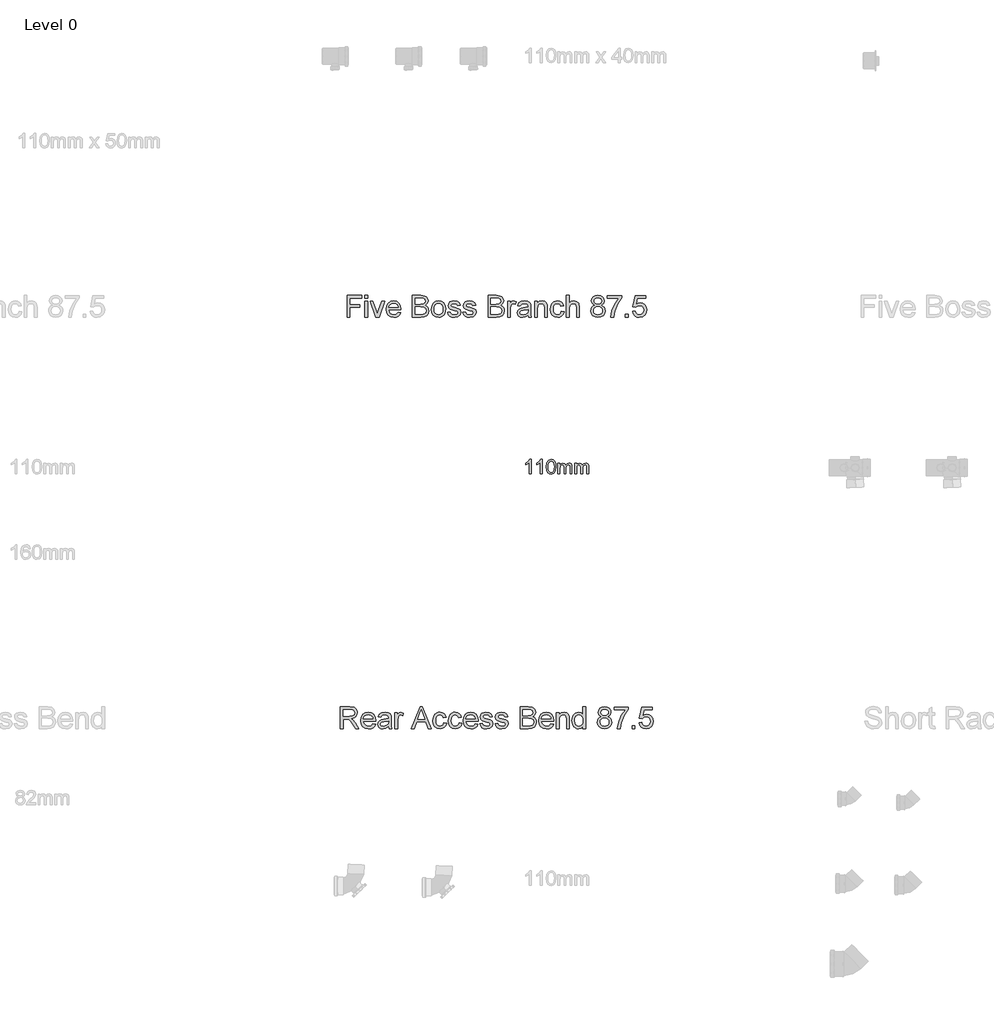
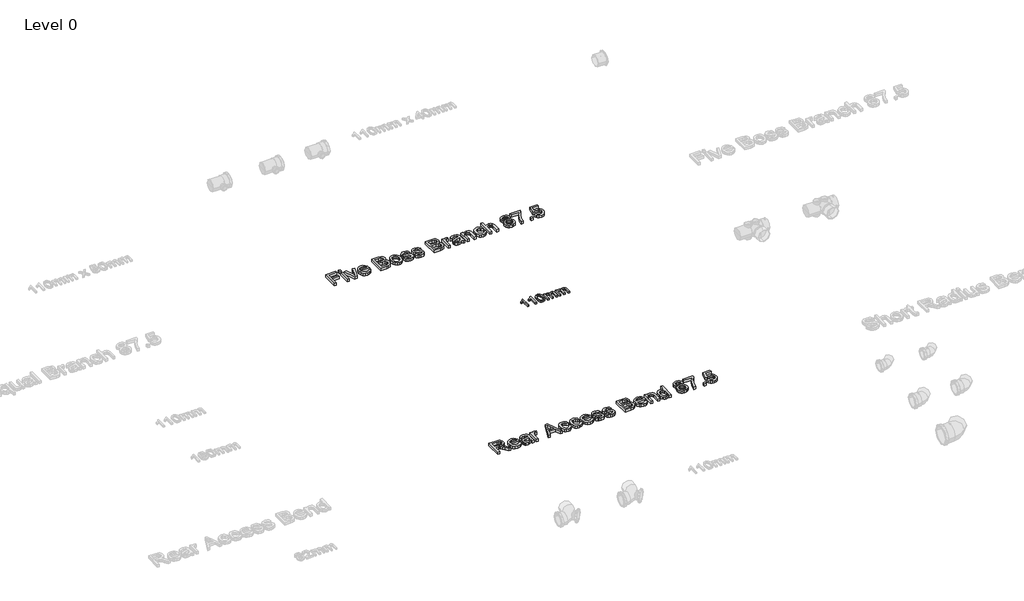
# One storey, part 12 of 23: 3 proxies.
"""IFC4 building model written with IfcOpenShell, lengths in millimetres."""

from ifc_helpers import new_model, si_unit, origin, origin_with_axes, place, context, project, spatial, polyline, outline, extrude, element, save

model = new_model("IFC4")

# Units and contexts
model_context = context("Model", 3, world=origin())
ifc_project = project(units=[si_unit("LENGTHUNIT", "METRE", prefix="MILLI")], contexts=[model_context])

# Site, building, storey
site = spatial("IfcSite", under=ifc_project)
building = spatial("IfcBuilding", under=site)
storey = spatial("IfcBuildingStorey", under=building, Name="Level 0", Elevation=0.0)

# Proxies
placement = place(None, origin())
element("IfcBuildingElementProxy", 1, Name="100mm Arial", ObjectType="100mm Arial", at=placement, inside=storey, context=model_context, shape_type="SweptSolid", body=[
    extrude(outline(polyline([(-10291.7293188, 2637.7167304), (-10304.0370111, 2637.7167304), (-10304.0370111, 2714.4474996), (-10315.6956649, 2706.1422111), (-10328.6523957, 2699.9282688), (-10328.6523957, 2711.5628842), (-10310.6115303, 2723.0773073), (-10299.6620111, 2736.1782688), (-10291.7293188, 2736.1782688), (-10291.7293188, 2637.7167304)])), origin_with_axes(), (0.0, 0.0, 1.0), 15.0),
    extrude(outline(polyline([(-10216.3447034, 2637.7167304), (-10228.6523957, 2637.7167304), (-10228.6523957, 2714.4474996), (-10240.3110495, 2706.1422111), (-10253.2677803, 2699.9282688), (-10253.2677803, 2711.5628842), (-10235.2269149, 2723.0773073), (-10224.2773957, 2736.1782688), (-10216.3447034, 2736.1782688), (-10216.3447034, 2637.7167304)])), origin_with_axes(), (0.0, 0.0, 1.0), 15.0),
    extrude(outline(polyline([(-10187.1139341, 2686.1542304), (-10183.4961457, 2714.4835573), (-10172.7509534, 2730.8176919), (-10154.8062418, 2736.1782688), (-10140.4312418, 2733.0051919), (-10130.5033572, 2723.8585573), (-10124.7341264, 2709.2912496), (-10122.4985495, 2686.1542304), (-10126.0802803, 2657.9450958), (-10136.7894149, 2641.5749035), (-10154.8062418, 2636.1782688), (-10167.5947034, 2638.5220188), (-10177.3062418, 2645.5532688), (-10184.6620111, 2662.2059131), (-10187.1139341, 2686.1542304)]), holes=[polyline([(-10174.8062418, 2686.1782688), (-10173.3639341, 2666.8182929), (-10169.0370111, 2655.613365), (-10162.5947034, 2650.2678121), (-10154.8062418, 2648.4859611), (-10147.0177803, 2650.2738217), (-10140.5754726, 2655.6374035), (-10136.2485495, 2666.848341), (-10134.8062418, 2686.1782688), (-10136.2004726, 2705.1025477), (-10140.3831649, 2716.394615), (-10146.8134534, 2722.0015861), (-10154.9504726, 2723.8705765), (-10162.6547995, 2722.2239419), (-10168.8447034, 2717.2840381), (-10173.3158572, 2705.2888458), (-10174.8062418, 2686.1782688)])]), origin_with_axes(), (0.0, 0.0, 1.0), 15.0),
    extrude(outline(polyline([(-10108.6523957, 2637.7167304), (-10108.6523957, 2710.0244227), (-10096.3447034, 2710.0244227), (-10096.3447034, 2698.1253842), (-10087.8831649, 2707.8729804), (-10075.8398957, 2711.5628842), (-10063.5081649, 2707.800865), (-10056.7293188, 2697.2599996), (-10047.1259534, 2707.9871631), (-10034.9985495, 2711.5628842), (-10025.7467466, 2710.0755044), (-10018.9047995, 2705.613365), (-10014.6770351, 2698.0562736), (-10013.2677803, 2687.2840381), (-10013.2677803, 2637.7167304), (-10025.5754726, 2637.7167304), (-10025.5754726, 2681.9955765), (-10026.7172995, 2692.2720188), (-10030.8519149, 2697.332115), (-10037.8831649, 2699.2551919), (-10049.9865303, 2694.3273073), (-10054.8062418, 2678.5340381), (-10054.8062418, 2637.7167304), (-10067.1139341, 2637.7167304), (-10067.1139341, 2683.3657688), (-10069.9624918, 2695.2888458), (-10079.3014341, 2699.2551919), (-10088.4120111, 2696.6109611), (-10094.4697034, 2688.8705765), (-10096.3447034, 2674.1830765), (-10096.3447034, 2637.7167304), (-10108.6523957, 2637.7167304)])), origin_with_axes(), (0.0, 0.0, 1.0), 15.0),
    extrude(outline(polyline([(-9994.8062418, 2637.7167304), (-9994.8062418, 2710.0244227), (-9982.4985495, 2710.0244227), (-9982.4985495, 2698.1253842), (-9974.0370111, 2707.8729804), (-9961.9937418, 2711.5628842), (-9949.6620111, 2707.800865), (-9942.8831649, 2697.2599996), (-9933.2797995, 2707.9871631), (-9921.1523957, 2711.5628842), (-9911.9005928, 2710.0755044), (-9905.0586457, 2705.613365), (-9900.8308813, 2698.0562736), (-9899.4216264, 2687.2840381), (-9899.4216264, 2637.7167304), (-9911.7293188, 2637.7167304), (-9911.7293188, 2681.9955765), (-9912.8711457, 2692.2720188), (-9917.0057611, 2697.332115), (-9924.0370111, 2699.2551919), (-9936.1403764, 2694.3273073), (-9940.960088, 2678.5340381), (-9940.960088, 2637.7167304), (-9953.2677803, 2637.7167304), (-9953.2677803, 2683.3657688), (-9956.116338, 2695.2888458), (-9965.4552803, 2699.2551919), (-9974.5658572, 2696.6109611), (-9980.6235495, 2688.8705765), (-9982.4985495, 2674.1830765), (-9982.4985495, 2637.7167304), (-9994.8062418, 2637.7167304)])), origin_with_axes(), (0.0, 0.0, 1.0), 15.0),
])
element("IfcBuildingElementProxy", 2, Name="150mm Arial", ObjectType="150mm Arial", at=placement, inside=storey, context=model_context, shape_type="SweptSolid", body=[
    extrude(outline(polyline([(-11544.4510666, 3705.2145219), (-11544.4510666, 3852.9068296), (-11445.2202973, 3852.9068296), (-11445.2202973, 3834.4452911), (-11525.9895281, 3834.4452911), (-11525.9895281, 3790.5991373), (-11456.7587589, 3790.5991373), (-11456.7587589, 3772.1375988), (-11525.9895281, 3772.1375988), (-11525.9895281, 3705.2145219), (-11544.4510666, 3705.2145219)])), origin_with_axes(), (0.0, 0.0, 1.0), 25.0),
    extrude(outline(polyline([(-11422.1433743, 3834.4452911), (-11422.1433743, 3852.9068296), (-11403.6818358, 3852.9068296), (-11403.6818358, 3834.4452911), (-11422.1433743, 3834.4452911)])), origin_with_axes(), (0.0, 0.0, 1.0), 25.0),
    extrude(outline(polyline([(-11422.1433743, 3705.2145219), (-11422.1433743, 3813.6760604), (-11403.6818358, 3813.6760604), (-11403.6818358, 3705.2145219), (-11422.1433743, 3705.2145219)])), origin_with_axes(), (0.0, 0.0, 1.0), 25.0),
    extrude(outline(polyline([(-11349.3789512, 3705.2145219), (-11387.5279897, 3813.6760604), (-11367.9847204, 3813.6760604), (-11344.8717397, 3748.7000988), (-11337.912605, 3726.8491373), (-11331.0977012, 3747.4741373), (-11307.8404897, 3813.6760604), (-11288.2972204, 3813.6760604), (-11325.9775089, 3705.2145219), (-11349.3789512, 3705.2145219)])), origin_with_axes(), (0.0, 0.0, 1.0), 25.0),
    extrude(outline(polyline([(-11196.2058743, 3737.5222142), (-11178.1049127, 3735.2145219), (-11184.6268478, 3721.5756998), (-11195.0339993, 3711.3803873), (-11209.0919921, 3705.025219), (-11226.5664512, 3702.9068296), (-11248.2281098, 3706.5621782), (-11264.8957781, 3717.5282238), (-11275.5237829, 3735.0928272), (-11279.0664512, 3758.5438488), (-11275.4877252, 3782.7836325), (-11264.7515473, 3800.9116373), (-11248.3092397, 3812.2157238), (-11227.6121243, 3815.9837527), (-11207.5595401, 3812.2247383), (-11191.5364031, 3800.947695), (-11181.030093, 3782.8557479), (-11177.5279897, 3758.6520219), (-11177.6361627, 3753.6760604), (-11260.6049127, 3753.6760604), (-11257.4092997, 3739.8569498), (-11249.9859223, 3729.697695), (-11239.2722805, 3723.4506998), (-11226.2058743, 3721.3683681), (-11208.1049127, 3725.2265411), (-11196.2058743, 3737.5222142)]), holes=[polyline([(-11260.6049127, 3772.1375988), (-11195.9895281, 3772.1375988), (-11198.4865233, 3781.8912046), (-11203.381355, 3788.8683681), (-11214.1445762, 3795.3587527), (-11227.6842397, 3797.5222142), (-11240.1286507, 3795.7959522), (-11250.4186147, 3790.6171661), (-11257.5715594, 3782.5447503), (-11260.6049127, 3772.1375988)])]), origin_with_axes(), (0.0, 0.0, 1.0), 25.0),
    extrude(outline(polyline([(-11099.0664512, 3705.2145219), (-11099.0664512, 3852.9068296), (-11042.7082781, 3852.9068296), (-11015.1061147, 3848.5618777), (-11005.8302733, 3843.049558), (-10998.8080377, 3835.2025027), (-10992.912605, 3816.3082719), (-10997.8705377, 3799.0546661), (-11012.8525089, 3785.9837527), (-11002.3912709, 3780.5210123), (-10994.6614031, 3772.2097142), (-10989.8882661, 3761.5997383), (-10988.2972204, 3749.2409642), (-10992.6421723, 3729.3912046), (-11003.4053935, 3715.2565892), (-11019.4690954, 3707.7565892), (-11043.1409704, 3705.2145219), (-11099.0664512, 3705.2145219)]), holes=[polyline([(-11080.6049127, 3723.6760604), (-11042.7443358, 3723.6760604), (-11029.0424127, 3724.3972142), (-11017.4498647, 3728.4176469), (-11009.7695762, 3736.6207719), (-11006.7587589, 3749.0606758), (-11010.2924127, 3763.4116373), (-11021.74073, 3771.9753392), (-11044.5472204, 3774.4452911), (-11080.6049127, 3774.4452911), (-11080.6049127, 3723.6760604)]), polyline([(-11080.6049127, 3792.9068296), (-11046.8909704, 3792.9068296), (-11027.2034704, 3794.4933681), (-11015.3585185, 3801.3263008), (-11011.3741435, 3813.3515411), (-11015.0880858, 3825.3948104), (-11025.725105, 3832.5162046), (-11049.4510666, 3834.4452911), (-11080.6049127, 3834.4452911), (-11080.6049127, 3792.9068296)])]), origin_with_axes(), (0.0, 0.0, 1.0), 25.0),
    extrude(outline(polyline([(-10969.835682, 3759.4452911), (-10965.8422925, 3785.5961325), (-10953.8621243, 3803.9765411), (-10939.0604416, 3812.9819498), (-10921.3380858, 3815.9837527), (-10901.9435546, 3812.3284041), (-10886.4522685, 3801.3623585), (-10876.2975209, 3783.9510003), (-10872.912605, 3760.9597142), (-10874.4089993, 3742.3088729), (-10878.898182, 3728.1111565), (-10886.249444, 3717.4786445), (-10896.3320762, 3709.5234161), (-10908.3077372, 3704.5609762), (-10921.3380858, 3702.9068296), (-10940.9669921, 3706.5486565), (-10956.4402493, 3717.4741373), (-10966.4868238, 3735.2505796), (-10969.835682, 3759.4452911)]), holes=[polyline([(-10951.3741435, 3759.4813488), (-10949.2377252, 3742.7731157), (-10942.8284704, 3730.86957), (-10933.1830377, 3723.7436686), (-10921.3380858, 3721.3683681), (-10909.5472204, 3723.7571902), (-10899.9198166, 3730.9236565), (-10893.5105618, 3742.9849546), (-10891.3741435, 3760.0582719), (-10893.5240834, 3776.2797262), (-10899.9739031, 3788.0210123), (-10909.6148286, 3795.1469137), (-10921.3380858, 3797.5222142), (-10933.1830377, 3795.1559282), (-10942.8284704, 3788.05707), (-10949.2377252, 3776.1805676), (-10951.3741435, 3759.4813488)])]), origin_with_axes(), (0.0, 0.0, 1.0), 25.0),
    extrude(outline(polyline([(-10859.0664512, 3737.5222142), (-10840.6049127, 3739.8299065), (-10837.6932541, 3731.9332719), (-10832.0592397, 3726.1279835), (-10812.4799127, 3721.3683681), (-10793.6577973, 3725.7313488), (-10787.5279897, 3735.9717335), (-10793.693855, 3744.2650027), (-10812.6962589, 3749.5294258), (-10840.4967397, 3758.5618777), (-10852.6301531, 3769.1087527), (-10856.7587589, 3784.0005796), (-10853.4414512, 3797.7565892), (-10844.3909704, 3808.2674065), (-10832.6541916, 3813.7301469), (-10816.7707781, 3815.9837527), (-10794.3068358, 3812.3599546), (-10780.0279897, 3802.5522623), (-10773.6818358, 3785.9837527), (-10792.1433743, 3783.6760604), (-10799.08448, 3793.8623585), (-10815.3284704, 3797.5222142), (-10832.9967397, 3794.0246181), (-10838.2972204, 3785.8755796), (-10836.0977012, 3780.5029835), (-10829.210682, 3776.4284642), (-10813.3092397, 3772.4981758), (-10786.2118839, 3763.8082719), (-10773.6277493, 3753.9645219), (-10769.0664512, 3737.9188488), (-10774.4210185, 3720.2505796), (-10789.8717397, 3707.43207), (-10812.7323166, 3702.9068296), (-10831.3471002, 3705.08832), (-10844.9318358, 3711.6327911), (-10854.0003454, 3722.4681277), (-10859.0664512, 3737.5222142)])), origin_with_axes(), (0.0, 0.0, 1.0), 25.0),
    extrude(outline(polyline([(-10755.2202973, 3737.5222142), (-10736.7587589, 3739.8299065), (-10733.8471002, 3731.9332719), (-10728.2130858, 3726.1279835), (-10708.6337589, 3721.3683681), (-10689.8116435, 3725.7313488), (-10683.6818358, 3735.9717335), (-10689.8477012, 3744.2650027), (-10708.850105, 3749.5294258), (-10736.6505858, 3758.5618777), (-10748.7839993, 3769.1087527), (-10752.912605, 3784.0005796), (-10749.5952973, 3797.7565892), (-10740.5448166, 3808.2674065), (-10728.8080377, 3813.7301469), (-10712.9246243, 3815.9837527), (-10690.460682, 3812.3599546), (-10676.1818358, 3802.5522623), (-10669.835682, 3785.9837527), (-10688.2972204, 3783.6760604), (-10695.2383262, 3793.8623585), (-10711.4823166, 3797.5222142), (-10729.1505858, 3794.0246181), (-10734.4510666, 3785.8755796), (-10732.2515473, 3780.5029835), (-10725.3645281, 3776.4284642), (-10709.4630858, 3772.4981758), (-10682.36573, 3763.8082719), (-10669.7815954, 3753.9645219), (-10665.2202973, 3737.9188488), (-10670.5748647, 3720.2505796), (-10686.0255858, 3707.43207), (-10708.8861627, 3702.9068296), (-10727.5009464, 3705.08832), (-10741.085682, 3711.6327911), (-10750.1541916, 3722.4681277), (-10755.2202973, 3737.5222142)])), origin_with_axes(), (0.0, 0.0, 1.0), 25.0),
    extrude(outline(polyline([(-10584.4510666, 3705.2145219), (-10584.4510666, 3852.9068296), (-10528.0928935, 3852.9068296), (-10500.49073, 3848.5618777), (-10491.2148887, 3843.049558), (-10484.1926531, 3835.2025027), (-10478.2972204, 3816.3082719), (-10483.2551531, 3799.0546661), (-10498.2371243, 3785.9837527), (-10487.7758863, 3780.5210123), (-10480.0460185, 3772.2097142), (-10475.2728815, 3761.5997383), (-10473.6818358, 3749.2409642), (-10478.0267877, 3729.3912046), (-10488.7900089, 3715.2565892), (-10504.8537108, 3707.7565892), (-10528.5255858, 3705.2145219), (-10584.4510666, 3705.2145219)]), holes=[polyline([(-10565.9895281, 3723.6760604), (-10528.1289512, 3723.6760604), (-10514.4270281, 3724.3972142), (-10502.83448, 3728.4176469), (-10495.1541916, 3736.6207719), (-10492.1433743, 3749.0606758), (-10495.6770281, 3763.4116373), (-10507.1253454, 3771.9753392), (-10529.9318358, 3774.4452911), (-10565.9895281, 3774.4452911), (-10565.9895281, 3723.6760604)]), polyline([(-10565.9895281, 3792.9068296), (-10532.2755858, 3792.9068296), (-10512.5880858, 3794.4933681), (-10500.7431339, 3801.3263008), (-10496.7587589, 3813.3515411), (-10500.4727012, 3825.3948104), (-10511.1097204, 3832.5162046), (-10534.835682, 3834.4452911), (-10565.9895281, 3834.4452911), (-10565.9895281, 3792.9068296)])]), origin_with_axes(), (0.0, 0.0, 1.0), 25.0),
    extrude(outline(polyline([(-10450.6049127, 3705.2145219), (-10450.6049127, 3813.6760604), (-10434.4510666, 3813.6760604), (-10434.4510666, 3797.6303873), (-10422.9847204, 3812.4140411), (-10411.4462589, 3815.9837527), (-10392.912605, 3810.2866373), (-10399.0784704, 3793.7361565), (-10412.0592397, 3797.5222142), (-10422.4979416, 3793.8803873), (-10429.1505858, 3783.7842335), (-10432.1433743, 3762.2217335), (-10432.1433743, 3705.2145219), (-10450.6049127, 3705.2145219)])), origin_with_axes(), (0.0, 0.0, 1.0), 25.0),
    extrude(outline(polyline([(-10312.1433743, 3719.0606758), (-10330.0460185, 3706.5486565), (-10349.8236627, 3702.9068296), (-10365.2518478, 3705.0973344), (-10376.632557, 3711.6688488), (-10383.6502853, 3721.6478152), (-10385.9895281, 3734.0606758), (-10382.4558743, 3748.6640411), (-10373.1710185, 3759.2650027), (-10360.2443358, 3765.322695), (-10344.2707781, 3768.0991373), (-10312.2515473, 3774.4452911), (-10312.1433743, 3778.5558681), (-10313.4144079, 3786.7950508), (-10317.2275089, 3792.1856758), (-10325.7551531, 3796.1880796), (-10337.6361627, 3797.5222142), (-10356.3140473, 3793.9705315), (-10365.2202973, 3781.3683681), (-10383.6818358, 3783.6760604), (-10375.695057, 3801.7049065), (-10359.6133262, 3812.2698104), (-10335.256355, 3815.9837527), (-10312.882557, 3812.7025027), (-10300.2443358, 3804.46332), (-10294.5832781, 3791.9332719), (-10293.6818358, 3775.7794258), (-10293.6818358, 3752.8106758), (-10292.7443358, 3720.7373585), (-10289.0664512, 3705.2145219), (-10307.5279897, 3705.2145219), (-10312.1433743, 3719.0606758)]), holes=[polyline([(-10312.1433743, 3755.9837527), (-10341.9270281, 3750.322695), (-10357.8104416, 3747.3299065), (-10365.0039512, 3742.4621181), (-10367.5279897, 3735.3587527), (-10362.0291916, 3725.3707719), (-10345.8933743, 3721.3683681), (-10327.2154897, 3725.7854354), (-10315.1722204, 3736.4765411), (-10312.2515473, 3750.7553873), (-10312.1433743, 3755.9837527)])]), origin_with_axes(), (0.0, 0.0, 1.0), 25.0),
    extrude(outline(polyline([(-10268.2972204, 3705.2145219), (-10268.2972204, 3813.6760604), (-10249.835682, 3813.6760604), (-10249.835682, 3798.5318296), (-10235.7190954, 3811.6207719), (-10216.4462589, 3815.9837527), (-10199.0123647, 3812.4681277), (-10187.1133262, 3803.2373585), (-10181.5784704, 3789.6616373), (-10180.6049127, 3771.8130796), (-10180.6049127, 3705.2145219), (-10199.0664512, 3705.2145219), (-10199.0664512, 3769.3250988), (-10201.193855, 3785.6592335), (-10208.7118839, 3794.2950508), (-10221.3861627, 3797.5222142), (-10232.1989632, 3795.7103152), (-10241.4162108, 3790.2746181), (-10247.7308142, 3779.7728152), (-10249.835682, 3762.7625988), (-10249.835682, 3705.2145219), (-10268.2972204, 3705.2145219)])), origin_with_axes(), (0.0, 0.0, 1.0), 25.0),
    extrude(outline(polyline([(-10085.9895281, 3744.4452911), (-10067.5279897, 3742.1375988), (-10072.6752252, 3725.7178272), (-10082.3477012, 3713.3094738), (-10095.6349608, 3705.5074907), (-10111.6265473, 3702.9068296), (-10131.264468, 3706.5351349), (-10146.6205377, 3717.4200508), (-10156.5318959, 3735.0838128), (-10159.835682, 3759.0486565), (-10154.1926531, 3789.7157238), (-10147.0712589, 3801.2136205), (-10136.9931339, 3809.4212527), (-10124.936343, 3814.3431277), (-10111.8789512, 3815.9837527), (-10096.2794921, 3813.7301469), (-10083.8080377, 3806.9693296), (-10074.8612228, 3796.0618777), (-10069.835682, 3781.3683681), (-10088.2972204, 3779.0606758), (-10096.8609223, 3792.8888008), (-10111.7347204, 3797.5222142), (-10123.6653094, 3795.2415652), (-10133.1349608, 3788.3996181), (-10139.3143478, 3776.6267815), (-10141.3741435, 3759.5534642), (-10139.3594199, 3742.2502791), (-10133.3152493, 3730.4368777), (-10124.0168719, 3723.6354955), (-10112.2395281, 3721.3683681), (-10102.6797324, 3722.7836325), (-10094.8416916, 3727.0294258), (-10089.140069, 3734.213921), (-10085.9895281, 3744.4452911)])), origin_with_axes(), (0.0, 0.0, 1.0), 25.0),
    extrude(outline(polyline([(-10051.3741435, 3705.2145219), (-10051.3741435, 3852.9068296), (-10032.912605, 3852.9068296), (-10032.912605, 3798.603945), (-10018.5165714, 3811.6388008), (-10000.7852012, 3815.9837527), (-9980.0520281, 3811.2421661), (-9967.4678935, 3798.135195), (-9963.6818358, 3773.8683681), (-9963.6818358, 3705.2145219), (-9982.1433743, 3705.2145219), (-9982.1433743, 3771.9573104), (-9983.6127252, 3783.5138008), (-9988.0207781, 3791.4284642), (-9995.1241435, 3795.9987767), (-10004.679432, 3797.5222142), (-10019.8056339, 3793.4116373), (-10029.9017877, 3782.2698104), (-10032.912605, 3762.8347142), (-10032.912605, 3705.2145219), (-10051.3741435, 3705.2145219)])), origin_with_axes(), (0.0, 0.0, 1.0), 25.0),
    extrude(outline(polyline([(-9858.3212589, 3786.5606758), (-9875.1421723, 3798.0270219), (-9880.6049127, 3815.8755796), (-9877.6301531, 3830.307671), (-9868.7058743, 3842.2337527), (-9854.8326772, 3850.2385604), (-9837.0111627, 3852.9068296), (-9819.0814752, 3850.1754594), (-9805.0279897, 3841.9813488), (-9795.9414512, 3829.8659642), (-9792.912605, 3815.3707719), (-9798.30323, 3797.9729354), (-9814.6553935, 3786.5606758), (-9803.2927132, 3780.705808), (-9795.02198, 3772.0835123), (-9789.9784103, 3761.1084522), (-9788.2972204, 3748.1952911), (-9791.632557, 3730.5450508), (-9801.6385666, 3715.9597142), (-9817.0892877, 3706.1700508), (-9836.7587589, 3702.9068296), (-9856.42823, 3706.1835724), (-9871.8789512, 3716.0138008), (-9881.8849608, 3730.7388609), (-9885.2202973, 3748.7000988), (-9883.4714993, 3762.1135604), (-9878.225105, 3773.1472142), (-9869.7515473, 3781.4224546), (-9858.3212589, 3786.5606758)]), holes=[polyline([(-9866.7587589, 3749.3491373), (-9863.6758262, 3735.4488969), (-9852.7683743, 3725.0462527), (-9836.6145281, 3721.3683681), (-9824.0484223, 3723.3019618), (-9814.6193358, 3729.1027431), (-9808.7239031, 3737.8872984), (-9806.7587589, 3748.7722142), (-9808.7870041, 3759.8419258), (-9814.8717397, 3768.8202911), (-9824.5171723, 3774.7698104), (-9837.2275089, 3776.7529835), (-9849.6178334, 3774.7968536), (-9858.9522685, 3768.9284642), (-9864.8071363, 3760.1213729), (-9866.7587589, 3749.3491373)]), polyline([(-9862.1433743, 3815.3347142), (-9860.5072565, 3807.27582), (-9855.5989031, 3800.8395219), (-9847.5625449, 3796.6207719), (-9836.5424127, 3795.2145219), (-9825.7791916, 3796.6117575), (-9817.8645281, 3800.8034642), (-9812.9967397, 3807.0234161), (-9811.3741435, 3814.5053873), (-9813.0508262, 3822.2713128), (-9818.0808743, 3828.6940892), (-9826.1037108, 3833.0074907), (-9836.7587589, 3834.4452911), (-9847.4814151, 3833.0390411), (-9855.49073, 3828.8202911), (-9860.4802132, 3822.6363969), (-9862.1433743, 3815.3347142)])]), origin_with_axes(), (0.0, 0.0, 1.0), 25.0),
    extrude(outline(polyline([(-9772.1433743, 3832.1375988), (-9772.1433743, 3850.5991373), (-9675.2202973, 3850.5991373), (-9675.2202973, 3835.6712527), (-9702.7142877, 3795.9537046), (-9723.7539512, 3745.3467335), (-9730.6049127, 3705.2145219), (-9749.0664512, 3705.2145219), (-9741.7287108, 3746.8611565), (-9721.5904897, 3793.9344738), (-9693.6818358, 3832.1375988), (-9772.1433743, 3832.1375988)])), origin_with_axes(), (0.0, 0.0, 1.0), 25.0),
    extrude(outline(polyline([(-9649.835682, 3705.2145219), (-9649.835682, 3723.6760604), (-9631.3741435, 3723.6760604), (-9631.3741435, 3705.2145219), (-9649.835682, 3705.2145219)])), origin_with_axes(), (0.0, 0.0, 1.0), 25.0),
    extrude(outline(polyline([(-9601.3741435, 3744.4452911), (-9582.912605, 3746.7529835), (-9579.523182, 3735.6697503), (-9573.6097204, 3727.7325508), (-9565.1992637, 3722.9594137), (-9554.318855, 3721.3683681), (-9541.085682, 3723.5814089), (-9531.1698166, 3730.2205315), (-9524.9769079, 3740.5195099), (-9522.912605, 3753.7121181), (-9524.8461988, 3766.1339931), (-9530.64698, 3775.635195), (-9540.3600209, 3781.665844), (-9554.0303935, 3783.6760604), (-9570.2383262, 3780.4669258), (-9580.6049127, 3772.1375988), (-9599.0664512, 3774.4452911), (-9582.912605, 3850.5991373), (-9511.3741435, 3850.5991373), (-9511.3741435, 3832.1375988), (-9567.9847204, 3832.1375988), (-9575.881355, 3791.4645219), (-9562.6932541, 3799.4693296), (-9548.8741435, 3802.1375988), (-9531.6250449, 3798.8293056), (-9517.3056339, 3788.9044258), (-9507.6647084, 3773.7782238), (-9504.4510666, 3754.8659642), (-9507.3446964, 3736.4044258), (-9516.0255858, 3720.6111565), (-9532.648182, 3707.3329113), (-9554.3909704, 3702.9068296), (-9572.5234824, 3705.7508801), (-9586.9690954, 3714.2830315), (-9596.8714392, 3727.5116974), (-9601.3741435, 3744.4452911)])), origin_with_axes(), (0.0, 0.0, 1.0), 25.0),
])
element("IfcBuildingElementProxy", 3, Name="150mm Arial", ObjectType="150mm Arial", at=placement, inside=storey, context=model_context, shape_type="SweptSolid", body=[
    extrude(outline(polyline([(-11589.4510666, 905.2145219), (-11589.4510666, 1052.9068296), (-11525.8092397, 1052.9068296), (-11496.2599608, 1048.9224546), (-11487.1644079, 1043.4056277), (-11480.1061147, 1034.8238969), (-11475.5763671, 1024.1823705), (-11474.0664512, 1012.4861565), (-11476.5679536, 997.9368777), (-11484.0724608, 985.8755796), (-11496.8053334, 977.0324306), (-11514.991932, 972.1375988), (-11504.4991435, 964.2409642), (-11489.5352012, 945.2385604), (-11464.9077973, 905.2145219), (-11486.3621243, 905.2145219), (-11505.5808743, 935.8275027), (-11519.4630858, 956.0919258), (-11529.2166916, 965.6652431), (-11537.9967397, 969.1808681), (-11548.7058743, 969.8299065), (-11570.9895281, 969.8299065), (-11570.9895281, 905.2145219), (-11589.4510666, 905.2145219)]), holes=[polyline([(-11570.9895281, 988.291445), (-11529.6674127, 988.291445), (-11508.5916916, 990.9056277), (-11496.6205377, 999.2710123), (-11492.5279897, 1011.8010604), (-11494.4796122, 1020.806469), (-11500.33448, 1028.0630796), (-11510.4080978, 1032.8497383), (-11525.0159704, 1034.4452911), (-11570.9895281, 1034.4452911), (-11570.9895281, 988.291445)])]), origin_with_axes(), (0.0, 0.0, 1.0), 25.0),
    extrude(outline(polyline([(-11368.1289512, 937.5222142), (-11350.0279897, 935.2145219), (-11356.5499247, 921.5756998), (-11366.9570762, 911.3803873), (-11381.015069, 905.025219), (-11398.4895281, 902.9068296), (-11420.1511868, 906.5621782), (-11436.818855, 917.5282238), (-11447.4468598, 935.0928272), (-11450.9895281, 958.5438488), (-11447.4108022, 982.7836325), (-11436.6746243, 1000.9116373), (-11420.2323166, 1012.2157238), (-11399.5352012, 1015.9837527), (-11379.4826171, 1012.2247383), (-11363.45948, 1000.947695), (-11352.9531699, 982.8557479), (-11349.4510666, 958.6520219), (-11349.5592397, 953.6760604), (-11432.5279897, 953.6760604), (-11429.3323767, 939.8569498), (-11421.9089993, 929.697695), (-11411.1953574, 923.4506998), (-11398.1289512, 921.3683681), (-11380.0279897, 925.2265411), (-11368.1289512, 937.5222142)]), holes=[polyline([(-11432.5279897, 972.1375988), (-11367.912605, 972.1375988), (-11370.4096002, 981.8912046), (-11375.304432, 988.8683681), (-11386.0676531, 995.3587527), (-11399.6073166, 997.5222142), (-11412.0517276, 995.7959522), (-11422.3416916, 990.6171661), (-11429.4946363, 982.5447503), (-11432.5279897, 972.1375988)])]), origin_with_axes(), (0.0, 0.0, 1.0), 25.0),
    extrude(outline(polyline([(-11261.7587589, 919.0606758), (-11279.6614031, 906.5486565), (-11299.4390473, 902.9068296), (-11314.8672324, 905.0973344), (-11326.2479416, 911.6688488), (-11333.2656699, 921.6478152), (-11335.6049127, 934.0606758), (-11332.0712589, 948.6640411), (-11322.7864031, 959.2650027), (-11309.8597204, 965.322695), (-11293.8861627, 968.0991373), (-11261.866932, 974.4452911), (-11261.7587589, 978.5558681), (-11263.0297925, 986.7950508), (-11266.8428935, 992.1856758), (-11275.3705377, 996.1880796), (-11287.2515473, 997.5222142), (-11305.929432, 993.9705315), (-11314.835682, 981.3683681), (-11333.2972204, 983.6760604), (-11325.3104416, 1001.7049065), (-11309.2287108, 1012.2698104), (-11284.8717397, 1015.9837527), (-11262.4979416, 1012.7025027), (-11249.8597204, 1004.46332), (-11244.1986627, 991.9332719), (-11243.2972204, 975.7794258), (-11243.2972204, 952.8106758), (-11242.3597204, 920.7373585), (-11238.6818358, 905.2145219), (-11257.1433743, 905.2145219), (-11261.7587589, 919.0606758)]), holes=[polyline([(-11261.7587589, 955.9837527), (-11291.5424127, 950.322695), (-11307.4258262, 947.3299065), (-11314.6193358, 942.4621181), (-11317.1433743, 935.3587527), (-11311.6445762, 925.3707719), (-11295.5087589, 921.3683681), (-11276.8308743, 925.7854354), (-11264.787605, 936.4765411), (-11261.866932, 950.7553873), (-11261.7587589, 955.9837527)])]), origin_with_axes(), (0.0, 0.0, 1.0), 25.0),
    extrude(outline(polyline([(-11217.912605, 905.2145219), (-11217.912605, 1013.6760604), (-11201.7587589, 1013.6760604), (-11201.7587589, 997.6303873), (-11190.2924127, 1012.4140411), (-11178.7539512, 1015.9837527), (-11160.2202973, 1010.2866373), (-11166.3861627, 993.7361565), (-11179.366932, 997.5222142), (-11189.8056339, 993.8803873), (-11196.4582781, 983.7842335), (-11199.4510666, 962.2217335), (-11199.4510666, 905.2145219), (-11217.912605, 905.2145219)])), origin_with_axes(), (0.0, 0.0, 1.0), 25.0),
    extrude(outline(polyline([(-11105.881355, 905.2145219), (-11046.9270281, 1052.9068296), (-11031.2058743, 1052.9068296), (-10972.2515473, 905.2145219), (-10991.7587589, 905.2145219), (-11008.6698166, 951.3683681), (-11069.4991435, 951.3683681), (-11086.3741435, 905.2145219), (-11105.881355, 905.2145219)]), holes=[polyline([(-11062.7202973, 969.8299065), (-11015.412605, 969.8299065), (-11028.7178935, 1006.1400027), (-11039.0664512, 1034.4452911), (-11048.2611627, 1009.3130796), (-11062.7202973, 969.8299065)])]), origin_with_axes(), (0.0, 0.0, 1.0), 25.0),
    extrude(outline(polyline([(-10885.6049127, 944.4452911), (-10867.1433743, 942.1375988), (-10872.2906098, 925.7178272), (-10881.9630858, 913.3094738), (-10895.2503454, 905.5074907), (-10911.241932, 902.9068296), (-10930.8798526, 906.5351349), (-10946.2359223, 917.4200508), (-10956.1472805, 935.0838128), (-10959.4510666, 959.0486565), (-10953.8080377, 989.7157238), (-10946.6866435, 1001.2136205), (-10936.6085185, 1009.4212527), (-10924.5517276, 1014.3431277), (-10911.4943358, 1015.9837527), (-10895.8948767, 1013.7301469), (-10883.4234223, 1006.9693296), (-10874.4766074, 996.0618777), (-10869.4510666, 981.3683681), (-10887.912605, 979.0606758), (-10896.476307, 992.8888008), (-10911.350105, 997.5222142), (-10923.280694, 995.2415652), (-10932.7503454, 988.3996181), (-10938.9297324, 976.6267815), (-10940.9895281, 959.5534642), (-10938.9748046, 942.2502791), (-10932.9306339, 930.4368777), (-10923.6322565, 923.6354955), (-10911.8549127, 921.3683681), (-10902.2951171, 922.7836325), (-10894.4570762, 927.0294258), (-10888.7554536, 934.213921), (-10885.6049127, 944.4452911)])), origin_with_axes(), (0.0, 0.0, 1.0), 25.0),
    extrude(outline(polyline([(-10781.7587589, 944.4452911), (-10763.2972204, 942.1375988), (-10768.444456, 925.7178272), (-10778.116932, 913.3094738), (-10791.4041916, 905.5074907), (-10807.3957781, 902.9068296), (-10827.0336988, 906.5351349), (-10842.3897685, 917.4200508), (-10852.3011267, 935.0838128), (-10855.6049127, 959.0486565), (-10849.9618839, 989.7157238), (-10842.8404897, 1001.2136205), (-10832.7623647, 1009.4212527), (-10820.7055738, 1014.3431277), (-10807.648182, 1015.9837527), (-10792.0487228, 1013.7301469), (-10779.5772685, 1006.9693296), (-10770.6304536, 996.0618777), (-10765.6049127, 981.3683681), (-10784.0664512, 979.0606758), (-10792.6301531, 992.8888008), (-10807.5039512, 997.5222142), (-10819.4345401, 995.2415652), (-10828.9041916, 988.3996181), (-10835.0835786, 976.6267815), (-10837.1433743, 959.5534642), (-10835.1286507, 942.2502791), (-10829.08448, 930.4368777), (-10819.7861026, 923.6354955), (-10808.0087589, 921.3683681), (-10798.4489632, 922.7836325), (-10790.6109223, 927.0294258), (-10784.9092997, 934.213921), (-10781.7587589, 944.4452911)])), origin_with_axes(), (0.0, 0.0, 1.0), 25.0),
    extrude(outline(polyline([(-10671.2058743, 937.5222142), (-10653.1049127, 935.2145219), (-10659.6268478, 921.5756998), (-10670.0339993, 911.3803873), (-10684.0919921, 905.025219), (-10701.5664512, 902.9068296), (-10723.2281098, 906.5621782), (-10739.8957781, 917.5282238), (-10750.5237829, 935.0928272), (-10754.0664512, 958.5438488), (-10750.4877252, 982.7836325), (-10739.7515473, 1000.9116373), (-10723.3092397, 1012.2157238), (-10702.6121243, 1015.9837527), (-10682.5595401, 1012.2247383), (-10666.5364031, 1000.947695), (-10656.030093, 982.8557479), (-10652.5279897, 958.6520219), (-10652.6361627, 953.6760604), (-10735.6049127, 953.6760604), (-10732.4092997, 939.8569498), (-10724.9859223, 929.697695), (-10714.2722805, 923.4506998), (-10701.2058743, 921.3683681), (-10683.1049127, 925.2265411), (-10671.2058743, 937.5222142)]), holes=[polyline([(-10735.6049127, 972.1375988), (-10670.9895281, 972.1375988), (-10673.4865233, 981.8912046), (-10678.381355, 988.8683681), (-10689.1445762, 995.3587527), (-10702.6842397, 997.5222142), (-10715.1286507, 995.7959522), (-10725.4186147, 990.6171661), (-10732.5715594, 982.5447503), (-10735.6049127, 972.1375988)])]), origin_with_axes(), (0.0, 0.0, 1.0), 25.0),
    extrude(outline(polyline([(-10640.9895281, 937.5222142), (-10622.5279897, 939.8299065), (-10619.616331, 931.9332719), (-10613.9823166, 926.1279835), (-10594.4029897, 921.3683681), (-10575.5808743, 925.7313488), (-10569.4510666, 935.9717335), (-10575.616932, 944.2650027), (-10594.6193358, 949.5294258), (-10622.4198166, 958.5618777), (-10634.55323, 969.1087527), (-10638.6818358, 984.0005796), (-10635.3645281, 997.7565892), (-10626.3140473, 1008.2674065), (-10614.5772685, 1013.7301469), (-10598.693855, 1015.9837527), (-10576.2299127, 1012.3599546), (-10561.9510666, 1002.5522623), (-10555.6049127, 985.9837527), (-10574.0664512, 983.6760604), (-10581.007557, 993.8623585), (-10597.2515473, 997.5222142), (-10614.9198166, 994.0246181), (-10620.2202973, 985.8755796), (-10618.0207781, 980.5029835), (-10611.1337589, 976.4284642), (-10595.2323166, 972.4981758), (-10568.1349608, 963.8082719), (-10555.5508262, 953.9645219), (-10550.9895281, 937.9188488), (-10556.3440954, 920.2505796), (-10571.7948166, 907.43207), (-10594.6553935, 902.9068296), (-10613.2701772, 905.08832), (-10626.8549127, 911.6327911), (-10635.9234223, 922.4681277), (-10640.9895281, 937.5222142)])), origin_with_axes(), (0.0, 0.0, 1.0), 25.0),
    extrude(outline(polyline([(-10537.1433743, 937.5222142), (-10518.6818358, 939.8299065), (-10515.7701772, 931.9332719), (-10510.1361627, 926.1279835), (-10490.5568358, 921.3683681), (-10471.7347204, 925.7313488), (-10465.6049127, 935.9717335), (-10471.7707781, 944.2650027), (-10490.773182, 949.5294258), (-10518.5736627, 958.5618777), (-10530.7070762, 969.1087527), (-10534.835682, 984.0005796), (-10531.5183743, 997.7565892), (-10522.4678935, 1008.2674065), (-10510.7311147, 1013.7301469), (-10494.8477012, 1015.9837527), (-10472.3837589, 1012.3599546), (-10458.1049127, 1002.5522623), (-10451.7587589, 985.9837527), (-10470.2202973, 983.6760604), (-10477.1614031, 993.8623585), (-10493.4053935, 997.5222142), (-10511.0736627, 994.0246181), (-10516.3741435, 985.8755796), (-10514.1746243, 980.5029835), (-10507.287605, 976.4284642), (-10491.3861627, 972.4981758), (-10464.288807, 963.8082719), (-10451.7046723, 953.9645219), (-10447.1433743, 937.9188488), (-10452.4979416, 920.2505796), (-10467.9486627, 907.43207), (-10490.8092397, 902.9068296), (-10509.4240233, 905.08832), (-10523.0087589, 911.6327911), (-10532.0772685, 922.4681277), (-10537.1433743, 937.5222142)])), origin_with_axes(), (0.0, 0.0, 1.0), 25.0),
    extrude(outline(polyline([(-10366.3741435, 905.2145219), (-10366.3741435, 1052.9068296), (-10310.0159704, 1052.9068296), (-10282.413807, 1048.5618777), (-10273.1379656, 1043.049558), (-10266.11573, 1035.2025027), (-10260.2202973, 1016.3082719), (-10265.17823, 999.0546661), (-10280.1602012, 985.9837527), (-10269.6989632, 980.5210123), (-10261.9690954, 972.2097142), (-10257.1959584, 961.5997383), (-10255.6049127, 949.2409642), (-10259.9498647, 929.3912046), (-10270.7130858, 915.2565892), (-10286.7767877, 907.7565892), (-10310.4486627, 905.2145219), (-10366.3741435, 905.2145219)]), holes=[polyline([(-10347.912605, 923.6760604), (-10310.0520281, 923.6760604), (-10296.350105, 924.3972142), (-10284.757557, 928.4176469), (-10277.0772685, 936.6207719), (-10274.0664512, 949.0606758), (-10277.600105, 963.4116373), (-10289.0484223, 971.9753392), (-10311.8549127, 974.4452911), (-10347.912605, 974.4452911), (-10347.912605, 923.6760604)]), polyline([(-10347.912605, 992.9068296), (-10314.1986627, 992.9068296), (-10294.5111627, 994.4933681), (-10282.6662108, 1001.3263008), (-10278.6818358, 1013.3515411), (-10282.3957781, 1025.3948104), (-10293.0327973, 1032.5162046), (-10316.7587589, 1034.4452911), (-10347.912605, 1034.4452911), (-10347.912605, 992.9068296)])]), origin_with_axes(), (0.0, 0.0, 1.0), 25.0),
    extrude(outline(polyline([(-10156.5904897, 937.5222142), (-10138.4895281, 935.2145219), (-10145.0114632, 921.5756998), (-10155.4186147, 911.3803873), (-10169.4766074, 905.025219), (-10186.9510666, 902.9068296), (-10208.6127252, 906.5621782), (-10225.2803935, 917.5282238), (-10235.9083983, 935.0928272), (-10239.4510666, 958.5438488), (-10235.8723406, 982.7836325), (-10225.1361627, 1000.9116373), (-10208.693855, 1012.2157238), (-10187.9967397, 1015.9837527), (-10167.9441555, 1012.2247383), (-10151.9210185, 1000.947695), (-10141.4147084, 982.8557479), (-10137.912605, 958.6520219), (-10138.0207781, 953.6760604), (-10220.9895281, 953.6760604), (-10217.7939151, 939.8569498), (-10210.3705377, 929.697695), (-10199.6568959, 923.4506998), (-10186.5904897, 921.3683681), (-10168.4895281, 925.2265411), (-10156.5904897, 937.5222142)]), holes=[polyline([(-10220.9895281, 972.1375988), (-10156.3741435, 972.1375988), (-10158.8711387, 981.8912046), (-10163.7659704, 988.8683681), (-10174.5291916, 995.3587527), (-10188.068855, 997.5222142), (-10200.5132661, 995.7959522), (-10210.80323, 990.6171661), (-10217.9561747, 982.5447503), (-10220.9895281, 972.1375988)])]), origin_with_axes(), (0.0, 0.0, 1.0), 25.0),
    extrude(outline(polyline([(-10119.4510666, 905.2145219), (-10119.4510666, 1013.6760604), (-10100.9895281, 1013.6760604), (-10100.9895281, 998.5318296), (-10086.8729416, 1011.6207719), (-10067.600105, 1015.9837527), (-10050.1662108, 1012.4681277), (-10038.2671723, 1003.2373585), (-10032.7323166, 989.6616373), (-10031.7587589, 971.8130796), (-10031.7587589, 905.2145219), (-10050.2202973, 905.2145219), (-10050.2202973, 969.3250988), (-10052.3477012, 985.6592335), (-10059.86573, 994.2950508), (-10072.5400089, 997.5222142), (-10083.3528094, 995.7103152), (-10092.570057, 990.2746181), (-10098.8846603, 979.7728152), (-10100.9895281, 962.7625988), (-10100.9895281, 905.2145219), (-10119.4510666, 905.2145219)])), origin_with_axes(), (0.0, 0.0, 1.0), 25.0),
    extrude(outline(polyline([(-9939.4510666, 905.2145219), (-9939.4510666, 922.6303873), (-9951.6656098, 907.837719), (-9968.5496243, 902.9068296), (-9980.4847204, 904.6916854), (-9991.4102012, 910.0462527), (-10000.6589993, 918.596433), (-10007.5640473, 929.9681277), (-10011.8639272, 943.7016012), (-10013.2972204, 959.3371181), (-10008.0147685, 988.7241373), (-10001.4162108, 1000.3797863), (-9992.1854416, 1008.9525027), (-9981.0210786, 1014.2259402), (-9968.6217397, 1015.9837527), (-9951.6025089, 1010.9537046), (-9939.4510666, 997.8827911), (-9939.4510666, 1052.9068296), (-9920.9895281, 1052.9068296), (-9920.9895281, 905.2145219), (-9939.4510666, 905.2145219)]), holes=[polyline([(-9994.835682, 959.4092335), (-9992.7533502, 942.7100147), (-9986.506355, 930.8335123), (-9977.428831, 923.7346541), (-9966.8549127, 921.3683681), (-9956.2855017, 923.6264811), (-9947.4378454, 930.40082), (-9941.4477613, 941.8175868), (-9939.4510666, 958.0029835), (-9941.483819, 975.698296), (-9947.5820762, 987.9669258), (-9956.655093, 995.1333921), (-9967.6121243, 997.5222142), (-9978.2942156, 995.2280436), (-9987.0472204, 988.3455315), (-9992.8885666, 976.5231157), (-9994.835682, 959.4092335)])]), origin_with_axes(), (0.0, 0.0, 1.0), 25.0),
    extrude(outline(polyline([(-9813.3212589, 986.5606758), (-9830.1421723, 998.0270219), (-9835.6049127, 1015.8755796), (-9832.6301531, 1030.307671), (-9823.7058743, 1042.2337527), (-9809.8326772, 1050.2385604), (-9792.0111627, 1052.9068296), (-9774.0814752, 1050.1754594), (-9760.0279897, 1041.9813488), (-9750.9414512, 1029.8659642), (-9747.912605, 1015.3707719), (-9753.30323, 997.9729354), (-9769.6553935, 986.5606758), (-9758.2927132, 980.705808), (-9750.02198, 972.0835123), (-9744.9784103, 961.1084522), (-9743.2972204, 948.1952911), (-9746.632557, 930.5450508), (-9756.6385666, 915.9597142), (-9772.0892877, 906.1700508), (-9791.7587589, 902.9068296), (-9811.42823, 906.1835724), (-9826.8789512, 916.0138008), (-9836.8849608, 930.7388609), (-9840.2202973, 948.7000988), (-9838.4714993, 962.1135604), (-9833.225105, 973.1472142), (-9824.7515473, 981.4224546), (-9813.3212589, 986.5606758)]), holes=[polyline([(-9817.1433743, 1015.3347142), (-9815.5072565, 1007.27582), (-9810.5989031, 1000.8395219), (-9802.5625449, 996.6207719), (-9791.5424127, 995.2145219), (-9780.7791916, 996.6117575), (-9772.8645281, 1000.8034642), (-9767.9967397, 1007.0234161), (-9766.3741435, 1014.5053873), (-9768.0508262, 1022.2713128), (-9773.0808743, 1028.6940892), (-9781.1037108, 1033.0074907), (-9791.7587589, 1034.4452911), (-9802.4814151, 1033.0390411), (-9810.49073, 1028.8202911), (-9815.4802132, 1022.6363969), (-9817.1433743, 1015.3347142)]), polyline([(-9821.7587589, 949.3491373), (-9818.6758262, 935.4488969), (-9807.7683743, 925.0462527), (-9791.6145281, 921.3683681), (-9779.0484223, 923.3019618), (-9769.6193358, 929.1027431), (-9763.7239031, 937.8872984), (-9761.7587589, 948.7722142), (-9763.7870041, 959.8419258), (-9769.8717397, 968.8202911), (-9779.5171723, 974.7698104), (-9792.2275089, 976.7529835), (-9804.6178334, 974.7968536), (-9813.9522685, 968.9284642), (-9819.8071363, 960.1213729), (-9821.7587589, 949.3491373)])]), origin_with_axes(), (0.0, 0.0, 1.0), 25.0),
    extrude(outline(polyline([(-9727.1433743, 1032.1375988), (-9727.1433743, 1050.5991373), (-9630.2202973, 1050.5991373), (-9630.2202973, 1035.6712527), (-9657.7142877, 995.9537046), (-9678.7539512, 945.3467335), (-9685.6049127, 905.2145219), (-9704.0664512, 905.2145219), (-9696.7287108, 946.8611565), (-9676.5904897, 993.9344738), (-9648.6818358, 1032.1375988), (-9727.1433743, 1032.1375988)])), origin_with_axes(), (0.0, 0.0, 1.0), 25.0),
    extrude(outline(polyline([(-9604.835682, 905.2145219), (-9604.835682, 923.6760604), (-9586.3741435, 923.6760604), (-9586.3741435, 905.2145219), (-9604.835682, 905.2145219)])), origin_with_axes(), (0.0, 0.0, 1.0), 25.0),
    extrude(outline(polyline([(-9556.3741435, 944.4452911), (-9537.912605, 946.7529835), (-9534.523182, 935.6697503), (-9528.6097204, 927.7325508), (-9520.1992637, 922.9594137), (-9509.318855, 921.3683681), (-9496.085682, 923.5814089), (-9486.1698166, 930.2205315), (-9479.9769079, 940.5195099), (-9477.912605, 953.7121181), (-9479.8461988, 966.1339931), (-9485.64698, 975.635195), (-9495.3600209, 981.665844), (-9509.0303935, 983.6760604), (-9525.2383262, 980.4669258), (-9535.6049127, 972.1375988), (-9554.0664512, 974.4452911), (-9537.912605, 1050.5991373), (-9466.3741435, 1050.5991373), (-9466.3741435, 1032.1375988), (-9522.9847204, 1032.1375988), (-9530.881355, 991.4645219), (-9517.6932541, 999.4693296), (-9503.8741435, 1002.1375988), (-9486.6250449, 998.8293056), (-9472.3056339, 988.9044258), (-9462.6647084, 973.7782238), (-9459.4510666, 954.8659642), (-9462.3446964, 936.4044258), (-9471.0255858, 920.6111565), (-9487.648182, 907.3329113), (-9509.3909704, 902.9068296), (-9527.5234824, 905.7508801), (-9541.9690954, 914.2830315), (-9551.8714392, 927.5116974), (-9556.3741435, 944.4452911)])), origin_with_axes(), (0.0, 0.0, 1.0), 25.0),
])

save(model, "model.ifc")
